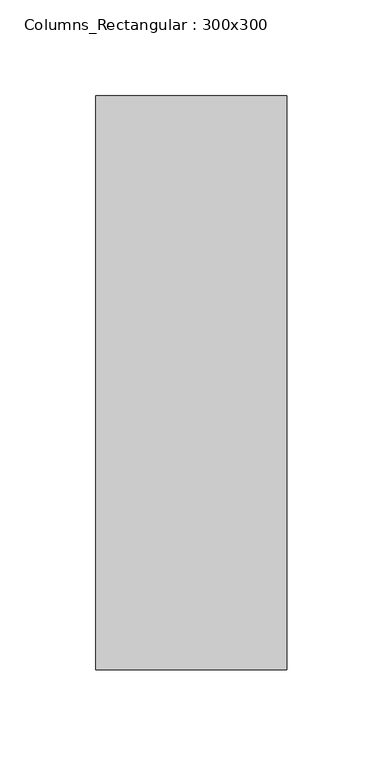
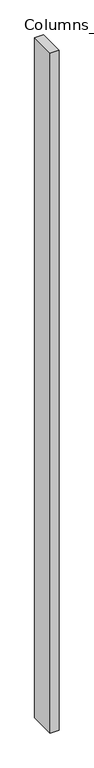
"""IFC4 building model written with IfcOpenShell, lengths in millimetres: column geometry, Columns_Rectangular : 300x300."""

from ifc_helpers import new_model, si_unit, frame, origin, place, context, project, spatial, polyline, outline, extrude, source, transform, mapped, element, save


def columns_rectangular_300x300_8a979122(model_context):
    return source(origin(), model_context, "Body", "SweptSolid", [
        extrude(outline(polyline([(50.0, -150.0), (-50.0, -150.0), (-50.0, 150.0), (50.0, 150.0), (50.0, -150.0)])), frame((0.0, 0.0, 5800.0), z_axis=(0.0, 0.0, 1.0), x_axis=(1.0, 0.0, 0.0)), (0.0, 0.0, 1.0), 8000.0),
    ])


if __name__ == "__main__":
    model = new_model("IFC4")
    model_context = context("Model", 3, world=origin())
    ifc_project = project(units=[si_unit("LENGTHUNIT", "METRE", prefix="MILLI")], contexts=[model_context])
    site = spatial("IfcSite", under=ifc_project)
    building = spatial("IfcBuilding", under=site)
    placement = place(None, origin())
    columns_rectangular_300x300_shape = columns_rectangular_300x300_8a979122(model_context)
    element("IfcColumn", 1, ObjectType="Columns_Rectangular : 300x300", at=placement, inside=building, context=model_context, shape_type="MappedRepresentation", body=[
        mapped(columns_rectangular_300x300_shape, transform((0.0, 0.0, 0.0), x_axis=(1.0, 0.0, 0.0), y_axis=(0.0, 1.0, 0.0), z_axis=(0.0, 0.0, 1.0))),
    ])
    save(model, "model.ifc")
